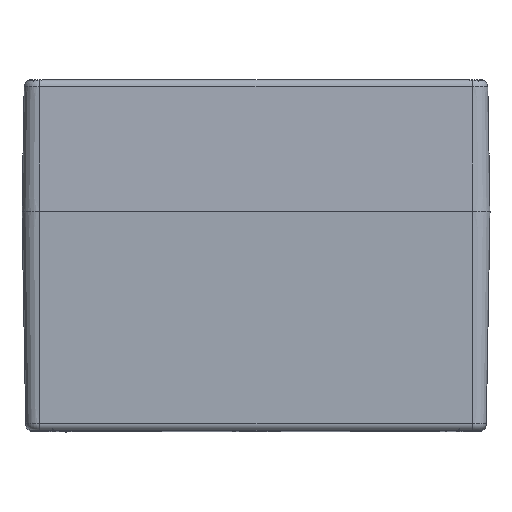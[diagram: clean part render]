
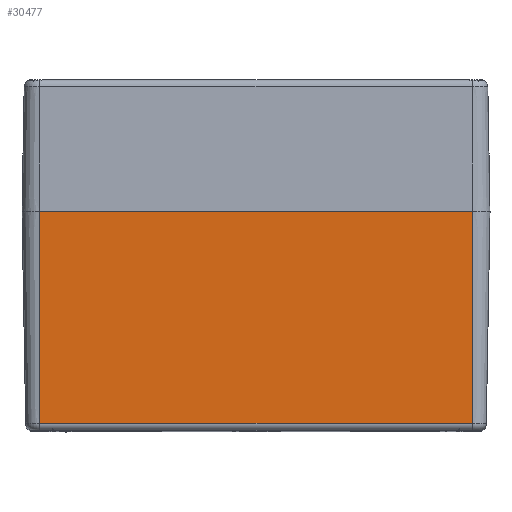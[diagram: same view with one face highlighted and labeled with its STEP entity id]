
A CAD part, top view. The second image highlights one B-rep face of the part: STEP entity #30477.
In plain terms, the highlighted planar face has unit normal (0, -0.018, 1).
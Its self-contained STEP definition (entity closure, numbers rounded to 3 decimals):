
#709 = ORIENTED_EDGE ( 'NONE', *, *, #12203, .F. ) ;
#2342 = VERTEX_POINT ( 'NONE', #30906 ) ;
#2600 = ORIENTED_EDGE ( 'NONE', *, *, #28615, .T. ) ;
#2624 = DIRECTION ( 'NONE',  ( 0., 1., 0.017 ) ) ;
#4495 = VERTEX_POINT ( 'NONE', #5523 ) ;
#4582 = ORIENTED_EDGE ( 'NONE', *, *, #28958, .T. ) ;
#5523 = CARTESIAN_POINT ( 'NONE',  ( -74., 0., 120. ) ) ;
#6164 = VERTEX_POINT ( 'NONE', #37403 ) ;
#6595 = LINE ( 'NONE', #28496, #23608 ) ;
#11114 = DIRECTION ( 'NONE',  ( 0., -0.017, 1. ) ) ;
#12203 = EDGE_CURVE ( 'NONE', #4495, #25726, #16660, .T. ) ;
#12725 = FACE_OUTER_BOUND ( 'NONE', #33628, .T. ) ;
#15681 = DIRECTION ( 'NONE',  ( 1., 0., 0. ) ) ;
#15938 = ORIENTED_EDGE ( 'NONE', *, *, #28902, .F. ) ;
#16660 = LINE ( 'NONE', #27431, #30632 ) ;
#20077 = LINE ( 'NONE', #34571, #24637 ) ;
#20358 = DIRECTION ( 'NONE',  ( 0., 1., 0.017 ) ) ;
#20486 = PLANE ( 'NONE',  #33275 ) ;
#23608 = VECTOR ( 'NONE', #15681, 1000. ) ;
#24637 = VECTOR ( 'NONE', #2624, 1000. ) ;
#25726 = VERTEX_POINT ( 'NONE', #31341 ) ;
#27431 = CARTESIAN_POINT ( 'NONE',  ( -74., 0., 120. ) ) ;
#28496 = CARTESIAN_POINT ( 'NONE',  ( 74., -72.544, 118.734 ) ) ;
#28615 = EDGE_CURVE ( 'NONE', #6164, #25726, #32575, .T. ) ;
#28902 = EDGE_CURVE ( 'NONE', #2342, #4495, #20077, .T. ) ;
#28958 = EDGE_CURVE ( 'NONE', #2342, #6164, #6595, .T. ) ;
#30137 = CARTESIAN_POINT ( 'NONE',  ( -74., 0., 120. ) ) ;
#30477 = ADVANCED_FACE ( 'NONE', ( #12725 ), #20486, .T. ) ;
#30618 = DIRECTION ( 'NONE',  ( 1., 0., 0. ) ) ;
#30632 = VECTOR ( 'NONE', #30618, 1000. ) ;
#30906 = CARTESIAN_POINT ( 'NONE',  ( -74., -72.544, 118.734 ) ) ;
#31341 = CARTESIAN_POINT ( 'NONE',  ( 74., 0., 120. ) ) ;
#32575 = LINE ( 'NONE', #33064, #34575 ) ;
#33064 = CARTESIAN_POINT ( 'NONE',  ( 74., 0., 120. ) ) ;
#33275 = AXIS2_PLACEMENT_3D ( 'NONE', #30137, #11114, #33314 ) ;
#33314 = DIRECTION ( 'NONE',  ( 0., -1., -0.017 ) ) ;
#33628 = EDGE_LOOP ( 'NONE', ( #15938, #4582, #2600, #709 ) ) ;
#34571 = CARTESIAN_POINT ( 'NONE',  ( -74., 0., 120. ) ) ;
#34575 = VECTOR ( 'NONE', #20358, 1000. ) ;
#37403 = CARTESIAN_POINT ( 'NONE',  ( 74., -72.544, 118.734 ) ) ;
